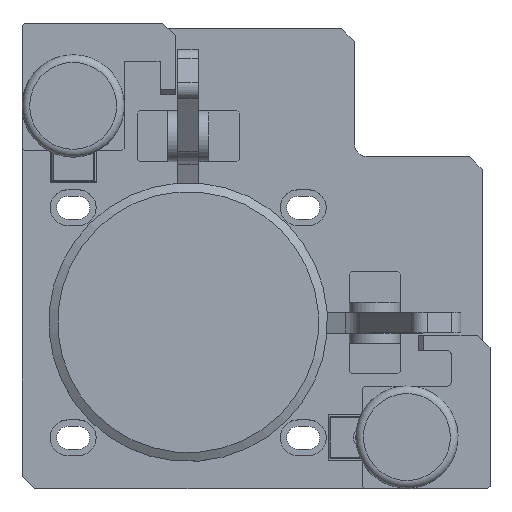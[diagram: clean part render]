
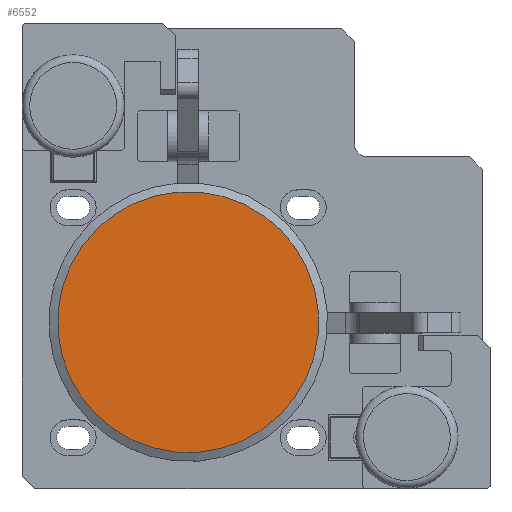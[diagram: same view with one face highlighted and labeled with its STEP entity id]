
A CAD part, top view. The second image highlights one B-rep face of the part: STEP entity #6552.
In plain terms, the highlighted planar face has unit normal (0, 0, 1).
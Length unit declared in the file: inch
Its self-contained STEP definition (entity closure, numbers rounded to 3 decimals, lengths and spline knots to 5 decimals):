
#1593=PLANE('',#7083);
#2128=FACE_OUTER_BOUND('',#2589,.T.);
#2589=EDGE_LOOP('',(#5472));
#2833=CIRCLE('',#7084,2.00929);
#3295=VERTEX_POINT('',#10358);
#4048=EDGE_CURVE('',#3295,#3295,#2833,.T.);
#5472=ORIENTED_EDGE('',*,*,#4048,.T.);
#6552=ADVANCED_FACE('',(#2128),#1593,.T.);
#7083=AXIS2_PLACEMENT_3D('',#10357,#8563,#8564);
#7084=AXIS2_PLACEMENT_3D('',#10359,#8565,#8566);
#8563=DIRECTION('center_axis',(0.,0.,
1.));
#8564=DIRECTION('ref_axis',(-0.078,0.997,0.));
#8565=DIRECTION('center_axis',(0.,0.,
1.));
#8566=DIRECTION('ref_axis',(-0.078,0.997,0.));
#10357=CARTESIAN_POINT('Origin',(-3.63675,0.15402,5.66929));
#10358=CARTESIAN_POINT('',(-3.79443,2.15711,5.66929));
#10359=CARTESIAN_POINT('Origin',(-3.63675,0.15402,5.66929));
